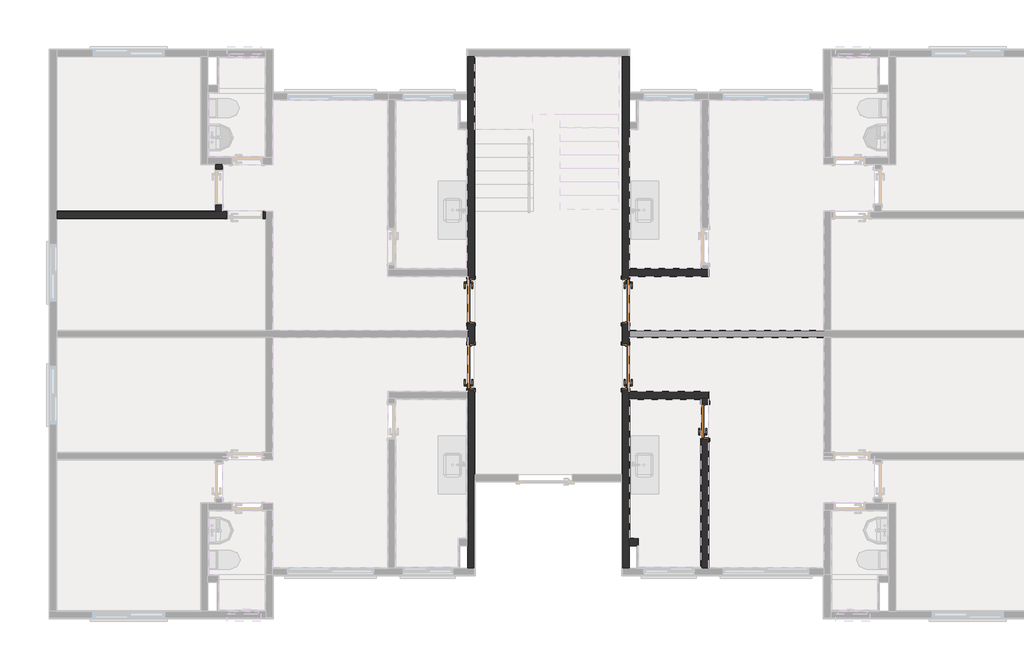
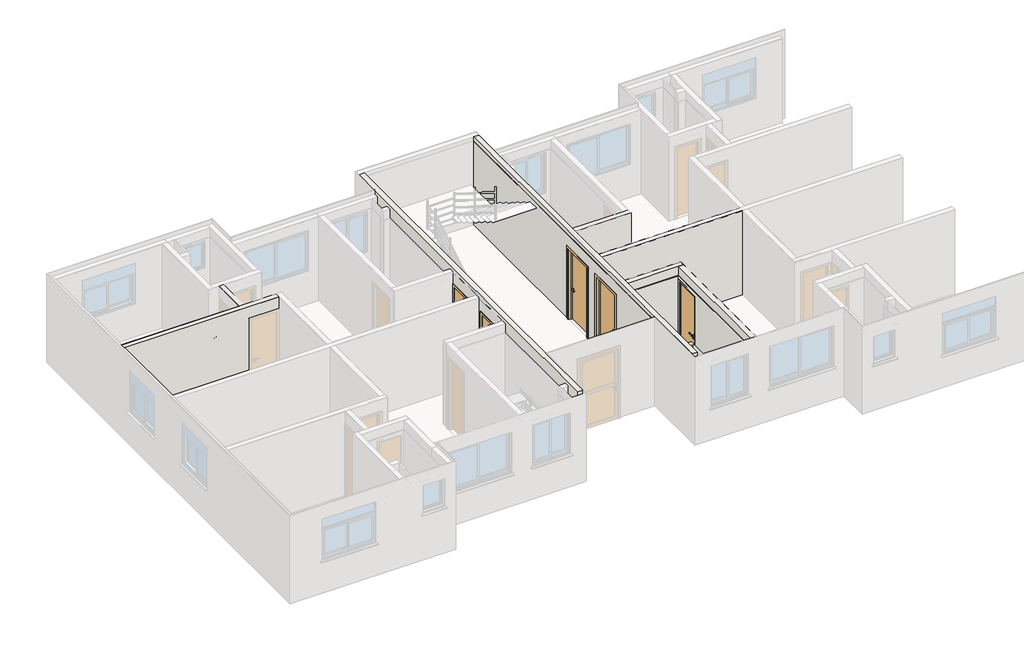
# One storey, part 4 of 11: 27 walls, 5 doors.
"""IFC4 building model written with IfcOpenShell, lengths in millimetres."""

from ifc_helpers import new_model, si_unit, frame, origin, origin_with_axes, place, context, project, spatial, polyline, outline, extrude, faceted_brep, transform, mapped, element, save
from components import porta_de_madeira_interna_70_x_210_porta_de_madeira_interna_d0067c94, porta_de_madeira_interna_90x210_porta_de_madeira_interna_90_f8e7363e, porta_de_madeira_interna_90x210_porta_de_madeira_interna_90_f331fdd0

model = new_model("IFC4")

# Units and contexts
model_context = context("Model", 3, world=origin())
ifc_project = project(units=[si_unit("LENGTHUNIT", "METRE", prefix="MILLI")], contexts=[model_context])

# Site, building, storey
site = spatial("IfcSite", under=ifc_project)
building = spatial("IfcBuilding", under=site)
storey = spatial("IfcBuildingStorey", under=building, Name="Térreo", Elevation=0.0)

# Doors
placement = place(None, origin())
porta_de_madeira_interna_70_x_210_porta_de_madeira_interna_shape = porta_de_madeira_interna_70_x_210_porta_de_madeira_interna_d0067c94(model_context)
element("IfcDoor", 1, ObjectType="Porta de Madeira Interna 70 x 210 : Porta de Madeira Interna 70 x 210", at=placement, inside=storey, context=model_context, shape_type="MappedRepresentation", body=[
    mapped(porta_de_madeira_interna_70_x_210_porta_de_madeira_interna_shape, transform((13673.8210213, 4578.6603139, 0.0), x_axis=(0.0, 1.0, 0.0), y_axis=(-1.0, 0.0, 0.0), z_axis=(0.0, 0.0, 1.0))),
])
porta_de_madeira_interna_90x210_porta_de_madeira_interna_90_shape = porta_de_madeira_interna_90x210_porta_de_madeira_interna_90_f8e7363e(model_context)
element("IfcDoor", 2, ObjectType="Porta de Madeira Interna 90x210 : Porta de Madeira Interna 90 x 210", at=placement, inside=storey, context=model_context, shape_type="MappedRepresentation", body=[
    mapped(porta_de_madeira_interna_90x210_porta_de_madeira_interna_90_shape, transform((8796.8213008, 7085.0103139, 0.0), x_axis=(0.0, -1.0, 0.0), y_axis=(1.0, 0.0, 0.0), z_axis=(0.0, 0.0, 1.0))),
])
element("IfcDoor", 3, ObjectType="Porta de Madeira Interna 90x210 : Porta de Madeira Interna 90 x 210", at=placement, inside=storey, context=model_context, shape_type="MappedRepresentation", body=[
    mapped(porta_de_madeira_interna_90x210_porta_de_madeira_interna_90_shape, transform((12023.1734066, 5715.0103139, 0.0), x_axis=(0.0, 1.0, 0.0), y_axis=(-1.0, 0.0, 0.0), z_axis=(0.0, 0.0, 1.0))),
])
porta_de_madeira_interna_90x210_porta_de_madeira_interna_90_2_shape = porta_de_madeira_interna_90x210_porta_de_madeira_interna_90_f331fdd0(model_context)
element("IfcDoor", 4, ObjectType="Porta de Madeira Interna 90x210 : Porta de Madeira Interna 90 x 210", at=placement, inside=storey, context=model_context, shape_type="MappedRepresentation", body=[
    mapped(porta_de_madeira_interna_90x210_porta_de_madeira_interna_90_2_shape, transform((8796.8213008, 5715.0103139, 0.0), x_axis=(0.0, 1.0, 0.0), y_axis=(-1.0, 0.0, 0.0), z_axis=(0.0, 0.0, 1.0))),
])
element("IfcDoor", 5, ObjectType="Porta de Madeira Interna 90x210 : Porta de Madeira Interna 90 x 210", at=placement, inside=storey, context=model_context, shape_type="MappedRepresentation", body=[
    mapped(porta_de_madeira_interna_90x210_porta_de_madeira_interna_90_2_shape, transform((12023.1734066, 7085.0103139, 0.0), x_axis=(0.0, -1.0, 0.0), y_axis=(1.0, 0.0, 0.0), z_axis=(0.0, 0.0, 1.0))),
])

# Walls
element("IfcWall", 6, ObjectType="Alvenaria Estrutural", at=placement, inside=storey, context=model_context, shape_type="Brep", body=[
    faceted_brep([(3619.9980641, 9924.0238664, 2510.0), (3619.9980641, 9930.0238664, 2510.0), (3479.9980641, 9930.0238664, 2510.0), (3479.9980641, 9924.0238664, 2510.0), (3479.9980641, 8950.0244803, 2510.0), (3619.9980641, 8950.0244803, 2510.0), (3619.9980641, 8956.0244803, 2510.0), (3619.9980641, 9082.0248023, 2125.0), (3619.9980641, 9082.0248023, 0.0), (3479.9980641, 9082.0248023, 0.0), (3479.9980641, 9082.0248023, 2125.0), (3619.9980641, 9832.0248023, 2125.0), (3479.9980641, 9832.0248023, 2125.0), (3619.9980641, 9832.0248023, 0.0), (3479.9980641, 9832.0248023, 0.0), (3619.9980641, 8950.0244803, 0.0), (3619.9980641, 8956.0244803, 0.0), (3619.9980641, 9924.0238664, 0.0), (3619.9980641, 9930.0238664, 0.0), (3479.9980641, 9930.0238664, 0.0), (3479.9980641, 9924.0238664, 0.0), (3479.9980641, 8950.0244803, 0.0)], [[[0, 1, 2, 3, 4, 5, 6]], [[7, 8, 9, 10]], [[11, 7, 10, 12]], [[13, 11, 12, 14]], [[1, 0, 6, 5, 15, 16, 8, 7, 11, 13, 17, 18]], [[4, 3, 2, 19, 20, 14, 12, 10, 9, 21]], [[16, 15, 21, 9, 8]], [[15, 5, 4, 21]], [[1, 18, 19, 2]], [[17, 13, 14, 20, 19, 18]]]),
    faceted_brep([(3619.9980641, 9930.0238664, 2510.0), (3619.9980641, 9924.0238664, 2510.0), (3619.9980641, 8956.0244803, 2510.0), (3619.9980641, 8950.0244803, 2510.0), (3619.9980641, 8950.0244803, 0.0), (3619.9980641, 8956.0244803, 0.0), (3619.9980641, 9082.0248023, 0.0), (3619.9980641, 9082.0248023, 2125.0), (3619.9980641, 9832.0248023, 2125.0), (3619.9980641, 9832.0248023, 0.0), (3619.9980641, 9924.0238664, 0.0), (3619.9980641, 9930.0238664, 0.0), (3479.9980641, 8950.0244803, 2510.0), (3479.9980641, 9924.0238664, 2510.0), (3479.9980641, 9930.0238664, 2510.0), (3479.9980641, 9930.0238664, 0.0), (3479.9980641, 9924.0238664, 0.0), (3479.9980641, 9832.0248023, 0.0), (3479.9980641, 9832.0248023, 2125.0), (3479.9980641, 9082.0248023, 2125.0), (3479.9980641, 9082.0248023, 0.0), (3479.9980641, 8950.0244803, 0.0)], [[[0, 1, 2, 3, 4, 5, 6, 7, 8, 9, 10, 11]], [[12, 13, 14, 15, 16, 17, 18, 19, 20, 21]], [[5, 4, 21, 20, 6]], [[1, 0, 14, 13, 12, 3, 2]], [[7, 6, 20, 19]], [[8, 7, 19, 18]], [[9, 8, 18, 17]], [[4, 3, 12, 21]], [[0, 11, 15, 14]], [[10, 9, 17, 16, 15, 11]]]),
])
element("IfcWall", 7, ObjectType="Alvenaria Estrutural", at=placement, inside=storey, context=model_context, shape_type="Brep", body=[
    faceted_brep([(169.9991825, 8950.0244803, 2510.0), (175.9991825, 8950.0244803, 2510.0), (3473.9980641, 8950.0244803, 2510.0), (3479.9980641, 8950.0244803, 2510.0), (3619.9980641, 8950.0244803, 2510.0), (3625.9980641, 8950.0244803, 2510.0), (4529.9996867, 8950.0244803, 2510.0), (4529.9996867, 8950.0244803, 0.0), (4467.999908, 8950.0244803, 0.0), (4467.999908, 8950.0244803, 2125.0), (3717.999908, 8950.0244803, 2125.0), (3717.999908, 8950.0244803, 0.0), (3625.9980641, 8950.0244803, 0.0), (3619.9980641, 8950.0244803, 0.0), (3479.9980641, 8950.0244803, 0.0), (3473.9980641, 8950.0244803, 0.0), (175.9991825, 8950.0244803, 0.0), (169.9991825, 8950.0244803, 0.0), (4529.9996867, 8810.0244803, 2510.0), (4523.9996867, 8810.0244803, 2510.0), (175.9991825, 8810.0244803, 2510.0), (169.9991825, 8810.0244803, 2510.0), (169.9991825, 8810.0244803, 0.0), (175.9991825, 8810.0244803, 0.0), (3717.999908, 8810.0244803, 0.0), (3717.999908, 8810.0244803, 2125.0), (4467.999908, 8810.0244803, 2125.0), (4467.999908, 8810.0244803, 0.0), (4523.9996867, 8810.0244803, 0.0), (4529.9996867, 8810.0244803, 0.0)], [[[0, 1, 2, 3, 4, 5, 6, 7, 8, 9, 10, 11, 12, 13, 14, 15, 16, 17]], [[18, 19, 20, 21, 22, 23, 24, 25, 26, 27, 28, 29]], [[8, 7, 29, 28, 27]], [[1, 0, 21, 20, 19, 18, 6, 5, 4, 3, 2]], [[9, 8, 27, 26]], [[10, 9, 26, 25]], [[11, 10, 25, 24]], [[7, 6, 18, 29]], [[0, 17, 22, 21]], [[12, 11, 24, 23, 22, 17, 16, 15, 14, 13]]]),
])
element("IfcWall", 8, ObjectType="Alvenaria Estrutural", at=placement, inside=storey, context=model_context, shape_type="Brep", body=[
    faceted_brep([(8729.9963008, 12179.9995833, 0.0), (8729.9963008, 12179.9995833, 10.0), (8729.9963008, 12179.9995833, 2520.0), (8729.9963008, 12179.9995833, 2630.0), (8869.9963008, 12179.9995833, 2630.0), (8869.9963008, 12179.9995833, 2520.0), (8869.9963008, 12179.9995833, 2510.0), (8869.9963008, 12179.9995833, 10.0), (8869.9963008, 12179.9995833, 0.0), (8729.9963008, 11436.0223004, 0.0), (8869.9963008, 7560.0103139, 0.0), (8729.9963008, 7560.0103139, 0.0), (8729.9963008, 7606.3603139, 0.0), (8729.9963008, 7746.3603139, 0.0), (8729.9963008, 7766.3603139, 0.0), (8729.9963008, 10655.0073729, 0.0), (8729.9963008, 10675.0073729, 0.0), (8729.9963008, 10815.0073729, 0.0), (8729.9963008, 11420.0223004, 0.0), (8729.9963008, 7560.0103139, 10.0), (8869.9963008, 7560.0103139, 10.0), (8869.9963008, 7560.0103139, 2125.0), (8729.9963008, 7560.0103139, 2125.0), (8729.9963008, 6610.0103139, 0.0), (8729.9963008, 6610.0103139, 10.0), (8729.9963008, 6610.0103139, 2125.0), (8869.9963008, 6610.0103139, 2125.0), (8869.9963008, 6610.0103139, 10.0), (8869.9963008, 6610.0103139, 0.0), (8729.9963008, 6476.0103139, 0.0), (8869.9963008, 6190.0103139, 0.0), (8729.9963008, 6190.0103139, 0.0), (8729.9963008, 6324.0103139, 0.0), (8729.9963008, 6330.0103139, 0.0), (8729.9963008, 6470.0103139, 0.0), (8729.9963008, 6190.0103139, 10.0), (8869.9963008, 6190.0103139, 10.0), (8869.9963008, 6190.0103139, 2125.0), (8729.9963008, 6190.0103139, 2125.0), (8729.9963008, 5240.0103139, 0.0), (8729.9963008, 5240.0103139, 10.0), (8729.9963008, 5240.0103139, 2125.0), (8869.9963008, 5240.0103139, 2125.0), (8869.9963008, 5240.0103139, 10.0), (8869.9963008, 5240.0103139, 0.0), (8729.9963008, 5193.6603139, 0.0), (8869.9963008, 3474.9995833, 0.0), (8869.9963008, 3470.00443, 0.0), (8869.9963008, 3330.00443, 0.0), (8869.9963008, 1519.9983274, 0.0), (8729.9963008, 1519.9983274, 0.0), (8729.9963008, 1985.0132549, 0.0), (8729.9963008, 2125.0132549, 0.0), (8729.9963008, 2145.0132549, 0.0), (8729.9963008, 5033.6603139, 0.0), (8729.9963008, 5053.6603139, 0.0), (8729.9963008, 1519.9983274, 10.0), (8869.9963008, 1519.9983274, 10.0), (8869.9963008, 1519.9983274, 2520.0), (8869.9963008, 1519.9983274, 2630.0), (8729.9963008, 1519.9983274, 2630.0), (8729.9963008, 1519.9983274, 2520.0), (8729.9963008, 11420.0223004, 2630.0), (8729.9963008, 11436.0223004, 2630.0)], [[[0, 1, 2, 3, 4, 5, 6, 7, 8]], [[9, 0, 8, 10, 11, 12, 13, 14, 15, 16, 17, 18]], [[19, 11, 10, 20, 21, 22]], [[23, 24, 25, 26, 27, 28]], [[29, 23, 28, 30, 31, 32, 33, 34]], [[35, 31, 30, 36, 37, 38]], [[39, 40, 41, 42, 43, 44]], [[45, 39, 44, 46, 47, 48, 49, 50, 51, 52, 53, 54, 55]], [[56, 50, 49, 57, 58, 59, 60, 61]], [[57, 49, 48, 47, 46, 44, 43, 42, 37, 36, 30, 28, 27, 26, 21, 20, 10, 8, 7, 6, 5, 4, 59, 58]], [[25, 22, 21, 26]], [[41, 38, 37, 42]], [[62, 60, 59, 4, 3, 63]], [[40, 39, 45, 55, 54, 53, 52, 51, 50, 56, 61, 60, 62, 63, 3, 2, 1, 0, 9, 18, 17, 16, 15, 14, 13, 12, 11, 19, 22, 25, 24, 23, 29, 34, 33, 32, 31, 35, 38, 41]]]),
])
element("IfcWall", 9, ObjectType="Alvenaria Estrutural", at=placement, inside=storey, context=model_context, shape_type="Brep", body=[
    faceted_brep([(11949.9984066, 12179.9995833, 0.0), (11949.9984066, 12179.9995833, 10.0), (11949.9984066, 12179.9995833, 2510.0), (11949.9984066, 12179.9995833, 2520.0), (11949.9984066, 12179.9995833, 2630.0), (12089.9984066, 12179.9995833, 2630.0), (12089.9984066, 12179.9995833, 2520.0), (12089.9984066, 12179.9995833, 2510.0), (12089.9984066, 12179.9995833, 10.0), (12089.9984066, 12179.9995833, 0.0), (11949.9984066, 12173.9995833, 0.0), (12089.9984066, 11436.0223004, 0.0), (12089.9984066, 11420.0223004, 0.0), (12089.9984066, 10815.0073729, 0.0), (12089.9984066, 10675.0073729, 0.0), (12089.9984066, 10655.0073729, 0.0), (12089.9984066, 7766.3603139, 0.0), (12089.9984066, 7746.3603139, 0.0), (12089.9984066, 7606.3603139, 0.0), (12089.9984066, 7560.0103139, 0.0), (11949.9984066, 7560.0103139, 0.0), (11949.9984066, 7560.0103139, 10.0), (12089.9984066, 7560.0103139, 10.0), (12089.9984066, 7560.0103139, 2125.0), (11949.9984066, 7560.0103139, 2125.0), (11949.9984066, 6610.0103139, 0.0), (11949.9984066, 6610.0103139, 10.0), (11949.9984066, 6610.0103139, 2125.0), (12089.9984066, 6610.0103139, 2125.0), (12089.9984066, 6610.0103139, 10.0), (12089.9984066, 6610.0103139, 0.0), (11949.9984066, 6190.0103139, 0.0), (12089.9984066, 6476.0103139, 0.0), (12089.9984066, 6470.0103139, 0.0), (12089.9984066, 6330.0103139, 0.0), (12089.9984066, 6324.0103139, 0.0), (12089.9984066, 6190.0103139, 0.0), (11949.9984066, 6190.0103139, 10.0), (12089.9984066, 6190.0103139, 10.0), (12089.9984066, 6190.0103139, 2125.0), (11949.9984066, 6190.0103139, 2125.0), (11949.9984066, 5240.0103139, 0.0), (11949.9984066, 5240.0103139, 10.0), (11949.9984066, 5240.0103139, 2125.0), (12089.9984066, 5240.0103139, 2125.0), (12089.9984066, 5240.0103139, 10.0), (12089.9984066, 5240.0103139, 0.0), (11949.9984066, 3468.9995833, 0.0), (12089.9984066, 5193.6603139, 0.0), (12089.9984066, 5053.6603139, 0.0), (12089.9984066, 5033.6603139, 0.0), (12089.9984066, 2145.0132549, 0.0), (12089.9984066, 2125.0132549, 0.0), (12089.9984066, 1985.0132549, 0.0), (12089.9984066, 1519.9983274, 0.0), (11949.9984066, 1519.9983274, 0.0), (11949.9984066, 3314.00443, 0.0), (11949.9984066, 3330.00443, 0.0), (11949.9984066, 1519.9983274, 10.0), (12089.9984066, 1519.9983274, 10.0), (12089.9984066, 1519.9983274, 2510.0), (12089.9984066, 1519.9983274, 2520.0), (12089.9984066, 1519.9983274, 2630.0), (11949.9984066, 1519.9983274, 2630.0), (11949.9984066, 1519.9983274, 2520.0), (11949.9984066, 1519.9983274, 2510.0), (12089.9984066, 11436.0223004, 2630.0), (12089.9984066, 11420.0223004, 2630.0), (11949.9984066, 3314.00443, 2630.0), (11949.9984066, 3330.00443, 2630.0)], [[[0, 1, 2, 3, 4, 5, 6, 7, 8, 9]], [[10, 0, 9, 11, 12, 13, 14, 15, 16, 17, 18, 19, 20]], [[21, 20, 19, 22, 23, 24]], [[25, 26, 27, 28, 29, 30]], [[31, 25, 30, 32, 33, 34, 35, 36]], [[37, 31, 36, 38, 39, 40]], [[41, 42, 43, 44, 45, 46]], [[47, 41, 46, 48, 49, 50, 51, 52, 53, 54, 55, 56, 57]], [[58, 55, 54, 59, 60, 61, 62, 63, 64, 65]], [[59, 54, 53, 52, 51, 50, 49, 48, 46, 45, 44, 39, 38, 36, 35, 34, 33, 32, 30, 29, 28, 23, 22, 19, 18, 17, 16, 15, 14, 13, 12, 11, 9, 8, 7, 6, 5, 66, 67, 62, 61, 60]], [[27, 24, 23, 28]], [[43, 40, 39, 44]], [[68, 63, 62, 67, 66, 5, 4, 69]], [[42, 41, 47, 57, 56, 55, 58, 65, 64, 63, 68, 69, 4, 3, 2, 1, 0, 10, 20, 21, 24, 27, 26, 25, 31, 37, 40, 43]]]),
])
element("IfcWall", 10, ObjectType="Alvenaria Estrutural", at=placement, inside=storey, context=model_context, shape_type="Brep", body=[
    faceted_brep([(12089.9984066, 1985.0132549, 0.0), (12249.9983974, 1985.0132549, 0.0), (12272.9983974, 1985.0132549, 0.0), (12272.9983974, 1985.0132549, 2510.0), (12249.9983974, 1985.0132549, 2510.0), (12089.9984066, 1985.0132549, 2510.0), (12089.9984066, 2125.0132549, 0.0), (12109.9984066, 2125.0132549, 0.0), (12272.9983974, 2125.0132549, 0.0), (12272.9983974, 2125.0132549, 2510.0), (12089.9984066, 2125.0132549, 2510.0), (12089.9984066, 2125.0132549, 2250.0)], [[[0, 1, 2, 3, 4, 5]], [[1, 0, 6, 7, 8, 2]], [[4, 3, 9, 10, 5]], [[6, 11, 10, 9, 8, 7]], [[3, 2, 8, 9]], [[0, 5, 10, 11, 6]]]),
    faceted_brep([(12089.9984066, 1985.0132549, 0.0), (12249.9983974, 1985.0132549, 0.0), (12272.9983974, 1985.0132549, 0.0), (12272.9983974, 1985.0132549, 2510.0), (12249.9983974, 1985.0132549, 2510.0), (12089.9984066, 1985.0132549, 2510.0), (12089.9984066, 2125.0132549, 0.0), (12089.9984066, 2125.0132549, 2250.0), (12089.9984066, 2125.0132549, 2510.0), (12272.9983974, 2125.0132549, 2510.0), (12272.9983974, 2125.0132549, 0.0), (12109.9984066, 2125.0132549, 0.0)], [[[0, 1, 2, 3, 4, 5]], [[6, 7, 8, 9, 10, 11]], [[1, 0, 6, 11, 10, 2]], [[4, 3, 9, 8, 5]], [[3, 2, 10, 9]], [[0, 5, 8, 7, 6]]]),
])
element("IfcWall", 11, ObjectType="Alvenaria Estrutural", at=placement, inside=storey, context=model_context, shape_type="Brep", body=[
    faceted_brep([(12089.9984066, 5053.6603139, 0.0), (12109.9984066, 5053.6603139, 0.0), (13586.992975, 5053.6603139, 0.0), (13606.9960213, 5053.6603139, 0.0), (13746.9960213, 5053.6603139, 0.0), (13746.9960213, 5053.6603139, 2510.0), (13606.9960213, 5053.6603139, 2510.0), (12089.9984066, 5053.6603139, 2510.0), (12089.9984066, 5053.6603139, 2250.0), (12089.9984066, 5193.6603139, 0.0), (12089.9984066, 5193.6603139, 2510.0), (12095.9984066, 5193.6603139, 2510.0), (13746.9960213, 5193.6603139, 2510.0), (13746.9960213, 5193.6603139, 0.0), (12095.9984066, 5193.6603139, 0.0)], [[[0, 1, 2, 3, 4, 5, 6, 7, 8]], [[9, 10, 11, 12, 13, 14]], [[1, 0, 9, 14, 13, 4, 3, 2]], [[6, 5, 12, 11, 10, 7]], [[5, 4, 13, 12]], [[8, 7, 10, 9, 0]]]),
])
element("IfcWall", 12, ObjectType="Alvenaria Estrutural", at=placement, inside=storey, context=model_context, shape_type="Brep", body=[
    faceted_brep([(13746.9960213, 1519.9983274, 0.0), (13746.9960213, 1519.9983274, 10.0), (13746.9960213, 1519.9983274, 2510.0), (13606.9960213, 1519.9983274, 2510.0), (13606.9960213, 1519.9983274, 2250.0), (13606.9960213, 1519.9983274, 10.0), (13606.9960213, 1519.9983274, 0.0), (13746.9960213, 1525.9983274, 0.0), (13606.9960213, 1539.9983274, 0.0), (13606.9960213, 4203.6603139, 0.0), (13746.9960213, 4203.6603139, 0.0), (13746.9960213, 4203.6603139, 10.0), (13606.9960213, 4203.6603139, 10.0), (13606.9960213, 4203.6603139, 2125.0), (13746.9960213, 4203.6603139, 2125.0), (13746.9960213, 4953.6603139, 0.0), (13746.9960213, 4953.6603139, 10.0), (13746.9960213, 4953.6603139, 2125.0), (13606.9960213, 4953.6603139, 2125.0), (13606.9960213, 4953.6603139, 10.0), (13606.9960213, 4953.6603139, 0.0), (13746.9960213, 5053.6603139, 0.0), (13606.9960213, 5033.6603139, 0.0), (13606.9960213, 5053.6603139, 0.0), (13746.9960213, 5053.6603139, 10.0), (13606.9960213, 5053.6603139, 10.0), (13606.9960213, 5053.6603139, 2250.0), (13606.9960213, 5053.6603139, 2510.0), (13746.9960213, 5053.6603139, 2510.0), (13746.9960213, 1525.9983274, 2510.0)], [[[0, 1, 2, 3, 4, 5, 6]], [[7, 0, 6, 8, 9, 10]], [[11, 10, 9, 12, 13, 14]], [[15, 16, 17, 18, 19, 20]], [[21, 15, 20, 22, 23]], [[24, 21, 23, 25, 26, 27, 28]], [[25, 23, 22, 20, 19, 18, 13, 12, 9, 8, 6, 5, 4, 3, 27, 26]], [[29, 28, 27, 3, 2]], [[17, 14, 13, 18]], [[16, 15, 21, 24, 28, 29, 2, 1, 0, 7, 10, 11, 14, 17]]]),
])
element("IfcWall", 13, ObjectType="Alvenaria Estrutural", at=placement, inside=storey, context=model_context, shape_type="Brep", body=[
    faceted_brep([(12089.9984066, 7606.3603139, 0.0), (12095.9984066, 7606.3603139, 0.0), (13746.9960213, 7606.3603139, 0.0), (13746.9960213, 7606.3603139, 2510.0), (12095.9984066, 7606.3603139, 2510.0), (12089.9984066, 7606.3603139, 2510.0), (12089.9984066, 7746.3603139, 0.0), (12089.9984066, 7746.3603139, 2250.0), (12089.9984066, 7746.3603139, 2510.0), (13606.9960213, 7746.3603139, 2510.0), (13746.9960213, 7746.3603139, 2510.0), (13746.9960213, 7746.3603139, 0.0), (13606.9960213, 7746.3603139, 0.0), (13586.992975, 7746.3603139, 0.0), (12109.9984066, 7746.3603139, 0.0)], [[[0, 1, 2, 3, 4, 5]], [[6, 7, 8, 9, 10, 11, 12, 13, 14]], [[1, 0, 6, 14, 13, 12, 11, 2]], [[4, 3, 10, 9, 8, 5]], [[3, 2, 11, 10]], [[0, 5, 8, 7, 6]]]),
])
element("IfcWall", 14, ObjectType="Azulejo", at=placement, inside=storey, context=model_context, shape_type="Brep", body=[
    faceted_brep([(13586.992975, 1519.9983274, 0.0), (13586.992975, 4203.6603139, 0.0), (13596.992975, 4203.6603139, 0.0), (13596.992975, 1519.9983274, 0.0), (13596.992975, 1519.9983274, 10.0), (13596.992975, 1519.9983274, 2250.0), (13586.992975, 1519.9983274, 2250.0), (13586.992975, 1519.9983274, 10.0), (13586.992975, 5053.6603139, 0.0), (13586.992975, 5053.6603139, 10.0), (13586.992975, 5053.6603139, 2250.0), (13596.992975, 5053.6603139, 2250.0), (13596.992975, 5053.6603139, 10.0), (13596.992975, 5053.6603139, 0.0), (13596.992975, 4953.6603139, 0.0), (13586.992975, 4953.6603139, 0.0), (13586.992975, 4953.6603139, 10.0), (13596.992975, 4953.6603139, 10.0), (13596.992975, 4953.6603139, 2125.0), (13586.992975, 4953.6603139, 2125.0), (13586.992975, 4203.6603139, 10.0), (13586.992975, 4203.6603139, 2125.0), (13596.992975, 4203.6603139, 2125.0), (13596.992975, 4203.6603139, 10.0)], [[[0, 1, 2, 3]], [[0, 3, 4, 5, 6, 7]], [[8, 9, 10, 11, 12, 13]], [[14, 15, 8, 13]], [[16, 15, 14, 17, 18, 19]], [[2, 1, 20, 21, 22, 23]], [[3, 2, 23, 22, 18, 17, 14, 13, 12, 11, 5, 4]], [[10, 6, 5, 11]], [[21, 19, 18, 22]], [[1, 0, 7, 6, 10, 9, 8, 15, 16, 19, 21, 20]]]),
    faceted_brep([(13596.992975, 4203.6603139, 0.0), (13596.992975, 1519.9983274, 0.0), (13596.992975, 1519.9983274, 10.0), (13596.992975, 1519.9983274, 2250.0), (13596.992975, 5053.6603139, 2250.0), (13596.992975, 5053.6603139, 10.0), (13596.992975, 5053.6603139, 0.0), (13596.992975, 4953.6603139, 0.0), (13596.992975, 4953.6603139, 10.0), (13596.992975, 4953.6603139, 2125.0), (13596.992975, 4203.6603139, 2125.0), (13596.992975, 4203.6603139, 10.0), (13606.992975, 4203.6603139, 0.0), (13606.992975, 1519.9983274, 0.0), (13606.992975, 1519.9983274, 10.0), (13606.992975, 1519.9983274, 2250.0), (13606.992975, 5053.6603139, 2250.0), (13606.992975, 5053.6603139, 10.0), (13606.992975, 5053.6603139, 0.0), (13606.992975, 4953.6603139, 0.0), (13606.992975, 4953.6603139, 10.0), (13606.992975, 4953.6603139, 2125.0), (13606.992975, 4203.6603139, 2125.0), (13606.992975, 4203.6603139, 10.0)], [[[0, 1, 2, 3, 4, 5, 6, 7, 8, 9, 10, 11]], [[1, 0, 12, 13]], [[2, 1, 13, 14, 15, 3]], [[6, 5, 4, 16, 17, 18]], [[7, 6, 18, 19]], [[8, 7, 19, 20, 21, 9]], [[0, 11, 10, 22, 23, 12]], [[14, 13, 12, 23, 22, 21, 20, 19, 18, 17, 16, 15]], [[4, 3, 15, 16]], [[10, 9, 21, 22]]]),
])
element("IfcWall", 15, ObjectType="Azulejo", at=placement, inside=storey, context=model_context, shape_type="SweptSolid", body=[
    extrude(outline(polyline([(13606.9960213, 5033.6603139), (12089.9984066, 5033.6603139), (12089.9984066, 5043.6603139), (13606.9960213, 5043.6603139), (13606.9960213, 5033.6603139)])), origin_with_axes(), (0.0, 0.0, 1.0), 2250.0),
    extrude(outline(polyline([(12089.9984066, 5053.6603139), (13606.9960213, 5053.6603139), (13606.9960213, 5043.6603139), (12089.9984066, 5043.6603139), (12089.9984066, 5053.6603139)])), origin_with_axes(), (0.0, 0.0, 1.0), 2250.0),
])
element("IfcWall", 16, ObjectType="Azulejo", at=placement, inside=storey, context=model_context, shape_type="SweptSolid", body=[
    extrude(outline(polyline([(12109.9984066, 5053.6603139), (12109.9984066, 2125.0132549), (12099.9984066, 2125.0132549), (12099.9984066, 5053.6603139), (12109.9984066, 5053.6603139)])), origin_with_axes(), (0.0, 0.0, 1.0), 2250.0),
    extrude(outline(polyline([(12089.9984066, 2125.0132549), (12089.9984066, 5053.6603139), (12099.9984066, 5053.6603139), (12099.9984066, 2125.0132549), (12089.9984066, 2125.0132549)])), origin_with_axes(), (0.0, 0.0, 1.0), 2250.0),
])
element("IfcWall", 17, ObjectType="Azulejo", at=placement, inside=storey, context=model_context, shape_type="SolidModel", body=[
    extrude(outline(polyline([(12089.9984066, 2145.0132549), (12282.9983974, 2145.0132549), (12282.9983974, 2135.0132549), (12089.9984066, 2135.0132549), (12089.9984066, 2145.0132549)])), origin_with_axes(), (0.0, 0.0, 1.0), 2250.0),
    faceted_brep([(12272.9983974, 2135.0132549, 0.0), (12089.9984066, 2135.0132549, 0.0), (12089.9984066, 2135.0132549, 2250.0), (12272.9983974, 2135.0132549, 2250.0), (12272.9983974, 2125.0132549, 0.0), (12272.9983974, 2125.0132549, 2250.0), (12262.9983974, 2125.0132549, 2250.0), (12089.9984066, 2125.0132549, 2250.0), (12089.9984066, 2125.0132549, 0.0), (12262.9983974, 2125.0132549, 0.0)], [[[0, 1, 2, 3]], [[4, 5, 6, 7, 8, 9]], [[9, 8, 1, 0, 4]], [[6, 5, 3, 2, 7]], [[8, 7, 2, 1]], [[5, 4, 0, 3]]]),
])
element("IfcWall", 18, ObjectType="Azulejo", at=placement, inside=storey, context=model_context, shape_type="SweptSolid", body=[
    extrude(outline(polyline([(12282.9983974, 2135.0132549), (12282.9983974, 1985.0132549), (12272.9983974, 1985.0132549), (12272.9983974, 2135.0132549), (12282.9983974, 2135.0132549)])), origin_with_axes(), (0.0, 0.0, 1.0), 2250.0),
    extrude(outline(polyline([(12262.9983974, 1985.0132549), (12262.9983974, 2125.0132549), (12272.9983974, 2125.0132549), (12272.9983974, 1985.0132549), (12262.9983974, 1985.0132549)])), origin_with_axes(), (0.0, 0.0, 1.0), 2250.0),
])
element("IfcWall", 19, ObjectType="Azulejo", at=placement, inside=storey, context=model_context, shape_type="SweptSolid", body=[
    extrude(outline(polyline([(12089.9984066, 7766.3603139), (13606.9960213, 7766.3603139), (13606.9960213, 7756.3603139), (12089.9984066, 7756.3603139), (12089.9984066, 7766.3603139)])), origin_with_axes(), (0.0, 0.0, 1.0), 2250.0),
    extrude(outline(polyline([(13606.9960213, 7746.3603139), (12089.9984066, 7746.3603139), (12089.9984066, 7756.3603139), (13606.9960213, 7756.3603139), (13606.9960213, 7746.3603139)])), origin_with_axes(), (0.0, 0.0, 1.0), 2250.0),
])
element("IfcWall", 20, ObjectType="Gesso Liso + Pintura", at=placement, inside=storey, context=model_context, shape_type="SweptSolid", body=[
    extrude(outline(polyline([(2510.0, 4529.9996867), (2510.0, 169.9991825), (0.0, 169.9991825), (0.0, 3717.999908), (2125.0, 3717.999908), (2125.0, 4467.999908), (0.0, 4467.999908), (0.0, 4529.9996867), (2510.0, 4529.9996867)])), frame((0.0, 8804.0244803, 0.0), z_axis=(0.0, 1.0, 0.0), x_axis=(0.0, 0.0, 1.0)), (0.0, 0.0, 1.0), 1.0),
    extrude(outline(polyline([(0.0, 169.9991825), (0.0, 3717.999908), (2125.0, 3717.999908), (2125.0, 4467.999908), (0.0, 4467.999908), (0.0, 4529.9996867), (2510.0, 4529.9996867), (2510.0, 169.9991825), (0.0, 169.9991825)])), frame((0.0, 8805.0244803, 0.0), z_axis=(0.0, 1.0, 0.0), x_axis=(0.0, 0.0, 1.0)), (0.0, 0.0, 1.0), 5.0),
])
element("IfcWall", 21, ObjectType="Gesso Liso + Pintura", at=placement, inside=storey, context=model_context, shape_type="SweptSolid", body=[
    extrude(outline(polyline([(169.9991825, 8956.0244803), (3473.9980641, 8956.0244803), (3473.9980641, 8955.0244803), (169.9991825, 8955.0244803), (169.9991825, 8956.0244803)])), origin_with_axes(), (0.0, 0.0, 1.0), 2510.0),
    extrude(outline(polyline([(3474.9980641, 8950.0244803), (169.9991825, 8950.0244803), (169.9991825, 8955.0244803), (3474.9980641, 8955.0244803), (3474.9980641, 8950.0244803)])), origin_with_axes(), (0.0, 0.0, 1.0), 2510.0),
])
element("IfcWall", 22, ObjectType="Gesso Liso + Pintura", at=placement, inside=storey, context=model_context, shape_type="SolidModel", body=[
    faceted_brep([(8723.9963008, 6190.0103139, 0.0), (8723.9963008, 6330.0103139, 0.0), (8724.9963008, 6330.0103139, 0.0), (8724.9963008, 6190.0103139, 0.0), (8724.9963008, 6330.0103139, 2510.0), (8723.9963008, 6330.0103139, 2510.0), (8723.9963008, 5199.6603139, 2510.0), (8723.9963008, 5198.6603139, 2510.0), (8724.9963008, 5198.6603139, 2510.0), (8724.9963008, 6190.0103139, 2125.0), (8723.9963008, 6190.0103139, 2125.0), (8724.9963008, 5240.0103139, 2125.0), (8723.9963008, 5240.0103139, 2125.0), (8724.9963008, 5240.0103139, 0.0), (8723.9963008, 5240.0103139, 0.0), (8724.9963008, 5198.6603139, 0.0), (8723.9963008, 5198.6603139, 0.0), (8723.9963008, 5199.6603139, 0.0)], [[[0, 1, 2, 3]], [[4, 5, 6, 7, 8]], [[0, 3, 9, 10]], [[10, 9, 11, 12]], [[12, 11, 13, 14]], [[2, 1, 5, 4]], [[14, 13, 15, 16, 17]], [[3, 2, 4, 8, 15, 13, 11, 9]], [[1, 0, 10, 12, 14, 17, 16, 7, 6, 5]], [[8, 7, 16, 15]]]),
    extrude(outline(polyline([(6330.0103139, 0.0), (6190.0103139, 0.0), (6190.0103139, 2125.0), (5240.0103139, 2125.0), (5240.0103139, 0.0), (5193.6603139, 0.0), (5193.6603139, 2510.0), (6330.0103139, 2510.0), (6330.0103139, 0.0)])), frame((8724.9963008, 0.0, 0.0), z_axis=(1.0, 0.0, 0.0), x_axis=(0.0, 1.0, 0.0)), (0.0, 0.0, 1.0), 5.0),
])
element("IfcWall", 23, ObjectType="Gesso Liso + Pintura", at=placement, inside=storey, context=model_context, shape_type="SolidModel", body=[
    faceted_brep([(8723.9963008, 6470.0103139, 0.0), (8723.9963008, 6610.0103139, 0.0), (8724.9963008, 6610.0103139, 0.0), (8724.9963008, 6470.0103139, 0.0), (8723.9963008, 7600.3603139, 2510.0), (8723.9963008, 6470.0103139, 2510.0), (8724.9963008, 6470.0103139, 2510.0), (8724.9963008, 7601.3603139, 2510.0), (8723.9963008, 7601.3603139, 2510.0), (8723.9963008, 6610.0103139, 2125.0), (8724.9963008, 6610.0103139, 2125.0), (8723.9963008, 7560.0103139, 2125.0), (8724.9963008, 7560.0103139, 2125.0), (8723.9963008, 7560.0103139, 0.0), (8724.9963008, 7560.0103139, 0.0), (8723.9963008, 7600.3603139, 0.0), (8723.9963008, 7601.3603139, 0.0), (8724.9963008, 7601.3603139, 0.0)], [[[0, 1, 2, 3]], [[4, 5, 6, 7, 8]], [[2, 1, 9, 10]], [[10, 9, 11, 12]], [[12, 11, 13, 14]], [[0, 3, 6, 5]], [[14, 13, 15, 16, 17]], [[3, 2, 10, 12, 14, 17, 7, 6]], [[1, 0, 5, 4, 8, 16, 15, 13, 11, 9]], [[8, 7, 17, 16]]]),
    extrude(outline(polyline([(6610.0103139, 0.0), (6470.0103139, 0.0), (6470.0103139, 2510.0), (7606.3603139, 2510.0), (7606.3603139, 0.0), (7560.0103139, 0.0), (7560.0103139, 2125.0), (6610.0103139, 2125.0), (6610.0103139, 0.0)])), frame((8724.9963008, 0.0, 0.0), z_axis=(1.0, 0.0, 0.0), x_axis=(0.0, 1.0, 0.0)), (0.0, 0.0, 1.0), 5.0),
])
element("IfcWall", 24, ObjectType="Gesso Liso + Pintura", at=placement, inside=storey, context=model_context, shape_type="SweptSolid", body=[
    extrude(outline(polyline([(16149.9950207, 6324.0103139), (12089.9984066, 6324.0103139), (12089.9984066, 6325.0103139), (16149.9950207, 6325.0103139), (16149.9950207, 6324.0103139)])), origin_with_axes(), (0.0, 0.0, 1.0), 2510.0),
    extrude(outline(polyline([(12089.9984066, 6330.0103139), (16149.9950207, 6330.0103139), (16149.9950207, 6325.0103139), (12089.9984066, 6325.0103139), (12089.9984066, 6330.0103139)])), origin_with_axes(), (0.0, 0.0, 1.0), 2510.0),
])
element("IfcWall", 25, ObjectType="Gesso Liso + Pintura", at=placement, inside=storey, context=model_context, shape_type="SolidModel", body=[
    faceted_brep([(12095.9984066, 6330.0103139, 0.0), (12095.9984066, 6190.0103139, 0.0), (12094.9984066, 6190.0103139, 0.0), (12094.9984066, 6330.0103139, 0.0), (12095.9984066, 5199.6603139, 2510.0), (12095.9984066, 6330.0103139, 2510.0), (12094.9984066, 6330.0103139, 2510.0), (12094.9984066, 5198.6603139, 2510.0), (12095.9984066, 5198.6603139, 2510.0), (12095.9984066, 6190.0103139, 2125.0), (12094.9984066, 6190.0103139, 2125.0), (12095.9984066, 5240.0103139, 2125.0), (12094.9984066, 5240.0103139, 2125.0), (12095.9984066, 5240.0103139, 0.0), (12094.9984066, 5240.0103139, 0.0), (12095.9984066, 5199.6603139, 0.0), (12095.9984066, 5198.6603139, 0.0), (12094.9984066, 5198.6603139, 0.0)], [[[0, 1, 2, 3]], [[4, 5, 6, 7, 8]], [[2, 1, 9, 10]], [[10, 9, 11, 12]], [[12, 11, 13, 14]], [[0, 3, 6, 5]], [[14, 13, 15, 16, 17]], [[3, 2, 10, 12, 14, 17, 7, 6]], [[1, 0, 5, 4, 8, 16, 15, 13, 11, 9]], [[8, 7, 17, 16]]]),
    extrude(outline(polyline([(5193.6603139, 2510.0), (6330.0103139, 2510.0), (6330.0103139, 0.0), (6190.0103139, 0.0), (6190.0103139, 2125.0), (5240.0103139, 2125.0), (5240.0103139, 0.0), (5193.6603139, 0.0), (5193.6603139, 2510.0)])), frame((12089.9984066, 0.0, 0.0), z_axis=(1.0, 0.0, 0.0), x_axis=(0.0, 1.0, 0.0)), (0.0, 0.0, 1.0), 5.0),
])
element("IfcWall", 26, ObjectType="Gesso Liso + Pintura", at=placement, inside=storey, context=model_context, shape_type="SolidModel", body=[
    extrude(outline(polyline([(12095.9984066, 5199.6603139), (13752.9960213, 5199.6603139), (13752.9960213, 5198.6603139), (12095.9984066, 5198.6603139), (12095.9984066, 5199.6603139)])), origin_with_axes(), (0.0, 0.0, 1.0), 2510.0),
    faceted_brep([(13751.9960213, 5198.6603139, 0.0), (12094.9984066, 5198.6603139, 0.0), (12094.9984066, 5198.6603139, 2510.0), (13751.9960213, 5198.6603139, 2510.0), (13751.9960213, 5193.6603139, 0.0), (13751.9960213, 5193.6603139, 2510.0), (13746.9960213, 5193.6603139, 2510.0), (12094.9984066, 5193.6603139, 2510.0), (12094.9984066, 5193.6603139, 0.0), (13746.9960213, 5193.6603139, 0.0)], [[[0, 1, 2, 3]], [[4, 5, 6, 7, 8, 9]], [[9, 8, 1, 0, 4]], [[6, 5, 3, 2, 7]], [[8, 7, 2, 1]], [[5, 4, 0, 3]]]),
])
element("IfcWall", 27, ObjectType="Gesso Liso + Pintura", at=placement, inside=storey, context=model_context, shape_type="Brep", body=[
    faceted_brep([(13751.9960213, 4203.6603139, 0.0), (13752.9960213, 4203.6603139, 0.0), (13752.9960213, 1519.9983274, 0.0), (13751.9960213, 1519.9983274, 0.0), (13752.9960213, 4203.6603139, 10.0), (13751.9960213, 4203.6603139, 10.0), (13751.9960213, 4203.6603139, 2125.0), (13752.9960213, 4203.6603139, 2125.0), (13751.9960213, 4953.6603139, 0.0), (13752.9960213, 4953.6603139, 0.0), (13752.9960213, 4953.6603139, 10.0), (13752.9960213, 4953.6603139, 2125.0), (13751.9960213, 4953.6603139, 2125.0), (13751.9960213, 4953.6603139, 10.0), (13752.9960213, 5198.6603139, 0.0), (13751.9960213, 5198.6603139, 0.0), (13752.9960213, 1519.9983274, 10.0), (13752.9960213, 1519.9983274, 2510.0), (13751.9960213, 1519.9983274, 2510.0), (13751.9960213, 1519.9983274, 10.0), (13752.9960213, 5198.6603139, 10.0), (13752.9960213, 5198.6603139, 2510.0), (13751.9960213, 5198.6603139, 10.0), (13751.9960213, 5198.6603139, 2510.0)], [[[0, 1, 2, 3]], [[4, 1, 0, 5, 6, 7]], [[8, 9, 10, 11, 12, 13]], [[14, 9, 8, 15]], [[2, 16, 17, 18, 19, 3]], [[1, 4, 7, 11, 10, 9, 14, 20, 21, 17, 16, 2]], [[20, 14, 15, 22, 23, 21]], [[11, 7, 6, 12]], [[17, 21, 23, 18]], [[5, 0, 3, 19, 18, 23, 22, 15, 8, 13, 12, 6]]]),
    faceted_brep([(13751.9960213, 4953.6603139, 10.0), (13751.9960213, 4953.6603139, 0.0), (13751.9960213, 5193.6603139, 0.0), (13751.9960213, 5193.6603139, 10.0), (13751.9960213, 5193.6603139, 2510.0), (13751.9960213, 1519.9983274, 2510.0), (13751.9960213, 1519.9983274, 10.0), (13751.9960213, 1519.9983274, 0.0), (13751.9960213, 4203.6603139, 0.0), (13751.9960213, 4203.6603139, 10.0), (13751.9960213, 4203.6603139, 2125.0), (13751.9960213, 4953.6603139, 2125.0), (13746.9960213, 1519.9983274, 0.0), (13746.9960213, 4203.6603139, 0.0), (13746.9960213, 4203.6603139, 10.0), (13746.9960213, 4203.6603139, 2125.0), (13746.9960213, 4953.6603139, 2125.0), (13746.9960213, 4953.6603139, 10.0), (13746.9960213, 4953.6603139, 0.0), (13746.9960213, 5053.6603139, 0.0), (13746.9960213, 5193.6603139, 0.0), (13746.9960213, 5193.6603139, 10.0), (13746.9960213, 5193.6603139, 2510.0), (13746.9960213, 1519.9983274, 2510.0), (13746.9960213, 1519.9983274, 10.0), (13746.9960213, 5053.6603139, 2510.0)], [[[0, 1, 2, 3, 4, 5, 6, 7, 8, 9, 10, 11]], [[8, 7, 12, 13]], [[9, 8, 13, 14, 15, 10]], [[1, 0, 11, 16, 17, 18]], [[2, 1, 18, 19, 20]], [[3, 2, 20, 21, 22, 4]], [[7, 6, 5, 23, 24, 12]], [[21, 20, 19, 18, 17, 16, 15, 14, 13, 12, 24, 23, 25, 22]], [[11, 10, 15, 16]], [[5, 4, 22, 25, 23]]]),
])
element("IfcWall", 28, ObjectType="Gesso Liso + Pintura", at=placement, inside=storey, context=model_context, shape_type="SweptSolid", body=[
    extrude(outline(polyline([(12089.9984066, 6476.0103139), (16149.9950207, 6476.0103139), (16149.9950207, 6475.0103139), (12089.9984066, 6475.0103139), (12089.9984066, 6476.0103139)])), origin_with_axes(), (0.0, 0.0, 1.0), 2510.0),
    extrude(outline(polyline([(16149.9950207, 6470.0103139), (12089.9984066, 6470.0103139), (12089.9984066, 6475.0103139), (16149.9950207, 6475.0103139), (16149.9950207, 6470.0103139)])), origin_with_axes(), (0.0, 0.0, 1.0), 2510.0),
])
element("IfcWall", 29, ObjectType="Gesso Liso + Pintura", at=placement, inside=storey, context=model_context, shape_type="SolidModel", body=[
    faceted_brep([(12095.9984066, 6610.0103139, 0.0), (12095.9984066, 6470.0103139, 0.0), (12094.9984066, 6470.0103139, 0.0), (12094.9984066, 6610.0103139, 0.0), (12094.9984066, 6470.0103139, 2510.0), (12095.9984066, 6470.0103139, 2510.0), (12095.9984066, 7600.3603139, 2510.0), (12095.9984066, 7601.3603139, 2510.0), (12094.9984066, 7601.3603139, 2510.0), (12094.9984066, 6610.0103139, 2125.0), (12095.9984066, 6610.0103139, 2125.0), (12094.9984066, 7560.0103139, 2125.0), (12095.9984066, 7560.0103139, 2125.0), (12094.9984066, 7560.0103139, 0.0), (12095.9984066, 7560.0103139, 0.0), (12094.9984066, 7601.3603139, 0.0), (12095.9984066, 7601.3603139, 0.0), (12095.9984066, 7600.3603139, 0.0)], [[[0, 1, 2, 3]], [[4, 5, 6, 7, 8]], [[0, 3, 9, 10]], [[10, 9, 11, 12]], [[12, 11, 13, 14]], [[2, 1, 5, 4]], [[14, 13, 15, 16, 17]], [[3, 2, 4, 8, 15, 13, 11, 9]], [[1, 0, 10, 12, 14, 17, 16, 7, 6, 5]], [[8, 7, 16, 15]]]),
    extrude(outline(polyline([(6470.0103139, 2510.0), (7606.3603139, 2510.0), (7606.3603139, 0.0), (7560.0103139, 0.0), (7560.0103139, 2125.0), (6610.0103139, 2125.0), (6610.0103139, 0.0), (6470.0103139, 0.0), (6470.0103139, 2510.0)])), frame((12089.9984066, 0.0, 0.0), z_axis=(1.0, 0.0, 0.0), x_axis=(0.0, 1.0, 0.0)), (0.0, 0.0, 1.0), 5.0),
])
element("IfcWall", 30, ObjectType="Gesso Liso + Pintura", at=placement, inside=storey, context=model_context, shape_type="SolidModel", body=[
    extrude(outline(polyline([(13752.9960213, 7600.3603139), (12095.9984066, 7600.3603139), (12095.9984066, 7601.3603139), (13752.9960213, 7601.3603139), (13752.9960213, 7600.3603139)])), origin_with_axes(), (0.0, 0.0, 1.0), 2510.0),
    faceted_brep([(12094.9984066, 7601.3603139, 0.0), (13751.9960213, 7601.3603139, 0.0), (13751.9960213, 7601.3603139, 2510.0), (12094.9984066, 7601.3603139, 2510.0), (13751.9960213, 7606.3603139, 0.0), (13746.9960213, 7606.3603139, 0.0), (12094.9984066, 7606.3603139, 0.0), (12094.9984066, 7606.3603139, 2510.0), (13746.9960213, 7606.3603139, 2510.0), (13751.9960213, 7606.3603139, 2510.0)], [[[0, 1, 2, 3]], [[4, 5, 6, 7, 8, 9]], [[5, 4, 1, 0, 6]], [[8, 7, 3, 2, 9]], [[7, 6, 0, 3]], [[4, 9, 2, 1]]]),
])
element("IfcWall", 31, ObjectType="Gesso Liso + Pintura", at=placement, inside=storey, context=model_context, shape_type="SolidModel", body=[
    faceted_brep([(8874.9991022, 5240.0103139, 0.0), (8875.9991022, 5240.0103139, 0.0), (8875.9991022, 3474.9995833, 0.0), (8874.9991022, 3474.9995833, 0.0), (8875.9991022, 12173.9995833, 2510.0), (8875.9991022, 12174.9995833, 2510.0), (8874.9991022, 12174.9995833, 2510.0), (8874.9991022, 3474.9995833, 2510.0), (8875.9991022, 3474.9995833, 2510.0), (8875.9991022, 6610.0103139, 2125.0), (8875.9991022, 6610.0103139, 0.0), (8874.9991022, 6610.0103139, 0.0), (8874.9991022, 6610.0103139, 2125.0), (8874.9991022, 7560.0103139, 2125.0), (8875.9991022, 7560.0103139, 2125.0), (8874.9991022, 7560.0103139, 0.0), (8875.9991022, 7560.0103139, 0.0), (8875.9991022, 6190.0103139, 0.0), (8875.9991022, 6190.0103139, 2125.0), (8874.9991022, 6190.0103139, 2125.0), (8874.9991022, 6190.0103139, 0.0), (8875.9991022, 5240.0103139, 2125.0), (8874.9991022, 5240.0103139, 2125.0), (8874.9991022, 12174.9995833, 0.0), (8875.9991022, 12174.9995833, 0.0), (8875.9991022, 12173.9995833, 0.0)], [[[0, 1, 2, 3]], [[4, 5, 6, 7, 8]], [[9, 10, 11, 12]], [[9, 12, 13, 14]], [[14, 13, 15, 16]], [[17, 18, 19, 20]], [[19, 18, 21, 22]], [[1, 0, 22, 21]], [[11, 10, 17, 20]], [[16, 15, 23, 24, 25]], [[12, 11, 20, 19, 22, 0, 3, 7, 6, 23, 15, 13]], [[10, 9, 14, 16, 25, 24, 5, 4, 8, 2, 1, 21, 18, 17]], [[6, 5, 24, 23]], [[3, 2, 8, 7]]]),
    extrude(outline(polyline([(12179.9995833, 2510.0), (12179.9995833, 0.0), (7560.0103139, 0.0), (7560.0103139, 2125.0), (6610.0103139, 2125.0), (6610.0103139, 0.0), (6190.0103139, 0.0), (6190.0103139, 2125.0), (5240.0103139, 2125.0), (5240.0103139, 0.0), (3474.9995833, 0.0), (3474.9995833, 2510.0), (12179.9995833, 2510.0)])), frame((8869.9991022, 0.0, 0.0), z_axis=(1.0, 0.0, 0.0), x_axis=(0.0, 1.0, 0.0)), (0.0, 0.0, 1.0), 5.0),
])
element("IfcWall", 32, ObjectType="Gesso Liso + Pintura", at=placement, inside=storey, context=model_context, shape_type="SolidModel", body=[
    faceted_brep([(11943.9984066, 7560.0103139, 0.0), (11943.9984066, 12173.9995833, 0.0), (11944.9984066, 12173.9995833, 0.0), (11944.9984066, 7560.0103139, 0.0), (11943.9984066, 3473.9995833, 2510.0), (11944.9984066, 3473.9995833, 2510.0), (11944.9984066, 12173.9995833, 2510.0), (11943.9984066, 12173.9995833, 2510.0), (11943.9984066, 3474.9995833, 2510.0), (11943.9984066, 6610.0103139, 0.0), (11943.9984066, 6610.0103139, 2125.0), (11944.9984066, 6610.0103139, 2125.0), (11944.9984066, 6610.0103139, 0.0), (11943.9984066, 7560.0103139, 2125.0), (11944.9984066, 7560.0103139, 2125.0), (11943.9984066, 6190.0103139, 2125.0), (11943.9984066, 6190.0103139, 0.0), (11944.9984066, 6190.0103139, 0.0), (11944.9984066, 6190.0103139, 2125.0), (11943.9984066, 5240.0103139, 2125.0), (11944.9984066, 5240.0103139, 2125.0), (11943.9984066, 5240.0103139, 0.0), (11944.9984066, 5240.0103139, 0.0), (11943.9984066, 3474.9995833, 0.0), (11944.9984066, 3473.9995833, 0.0), (11943.9984066, 3473.9995833, 0.0)], [[[0, 1, 2, 3]], [[4, 5, 6, 7, 8]], [[1, 7, 6, 2]], [[9, 10, 11, 12]], [[10, 13, 14, 11]], [[13, 0, 3, 14]], [[15, 16, 17, 18]], [[19, 15, 18, 20]], [[21, 19, 20, 22]], [[16, 9, 12, 17]], [[23, 21, 22, 24, 25]], [[3, 2, 6, 5, 24, 22, 20, 18, 17, 12, 11, 14]], [[4, 8, 7, 1, 0, 13, 10, 9, 16, 15, 19, 21, 23, 25]], [[4, 25, 24, 5]]]),
    extrude(outline(polyline([(12174.9995833, 0.0), (7560.0103139, 0.0), (7560.0103139, 2125.0), (6610.0103139, 2125.0), (6610.0103139, 0.0), (6190.0103139, 0.0), (6190.0103139, 2125.0), (5240.0103139, 2125.0), (5240.0103139, 0.0), (3468.9995833, 0.0), (3468.9995833, 2510.0), (12174.9995833, 2510.0), (12174.9995833, 0.0)])), frame((11944.9984066, 0.0, 0.0), z_axis=(1.0, 0.0, 0.0), x_axis=(0.0, 1.0, 0.0)), (0.0, 0.0, 1.0), 5.0),
])

save(model, "model.ifc")
